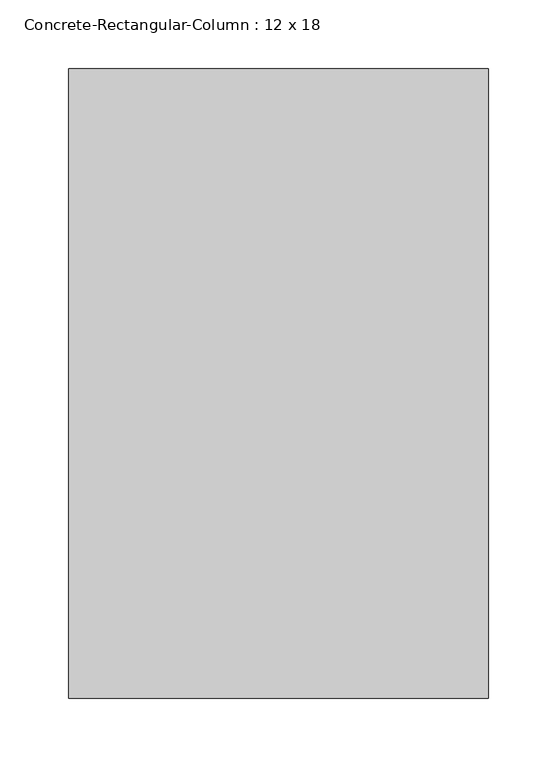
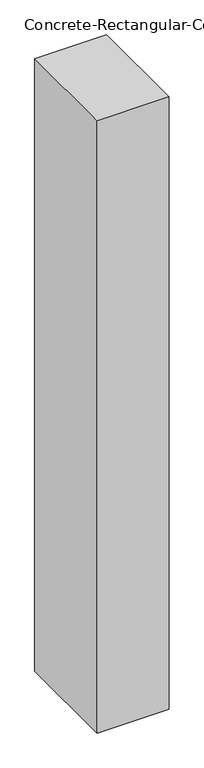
"""IFC4 building model written with IfcOpenShell, lengths in millimetres: column geometry, Concrete-Rectangular-Column : 12 x 18."""

from ifc_helpers import new_model, si_unit, frame, origin, place, context, project, spatial, polyline, outline, extrude, source, transform, mapped, element, save


def concrete_rectangular_column_12_x_18_d53c0298(model_context):
    return source(origin(), model_context, "Body", "SweptSolid", [
        extrude(outline(polyline([(152.4, 228.6), (152.4, -228.6), (-152.4, -228.6), (-152.4, 228.6), (152.4, 228.6)])), frame((0.0, 0.0, -2743.2), z_axis=(0.0, 0.0, 1.0), x_axis=(1.0, 0.0, 0.0)), (0.0, 0.0, 1.0), 2743.2),
    ])


if __name__ == "__main__":
    model = new_model("IFC4")
    model_context = context("Model", 3, world=origin())
    ifc_project = project(units=[si_unit("LENGTHUNIT", "METRE", prefix="MILLI")], contexts=[model_context])
    site = spatial("IfcSite", under=ifc_project)
    building = spatial("IfcBuilding", under=site)
    placement = place(None, origin())
    concrete_rectangular_column_12_x_18_shape = concrete_rectangular_column_12_x_18_d53c0298(model_context)
    element("IfcColumn", 1, ObjectType="Concrete-Rectangular-Column : 12 x 18", at=placement, inside=building, context=model_context, shape_type="MappedRepresentation", body=[
        mapped(concrete_rectangular_column_12_x_18_shape, transform((0.0, 0.0, 0.0), x_axis=(1.0, 0.0, 0.0), y_axis=(0.0, 1.0, 0.0), z_axis=(0.0, 0.0, 1.0))),
    ])
    save(model, "model.ifc")
